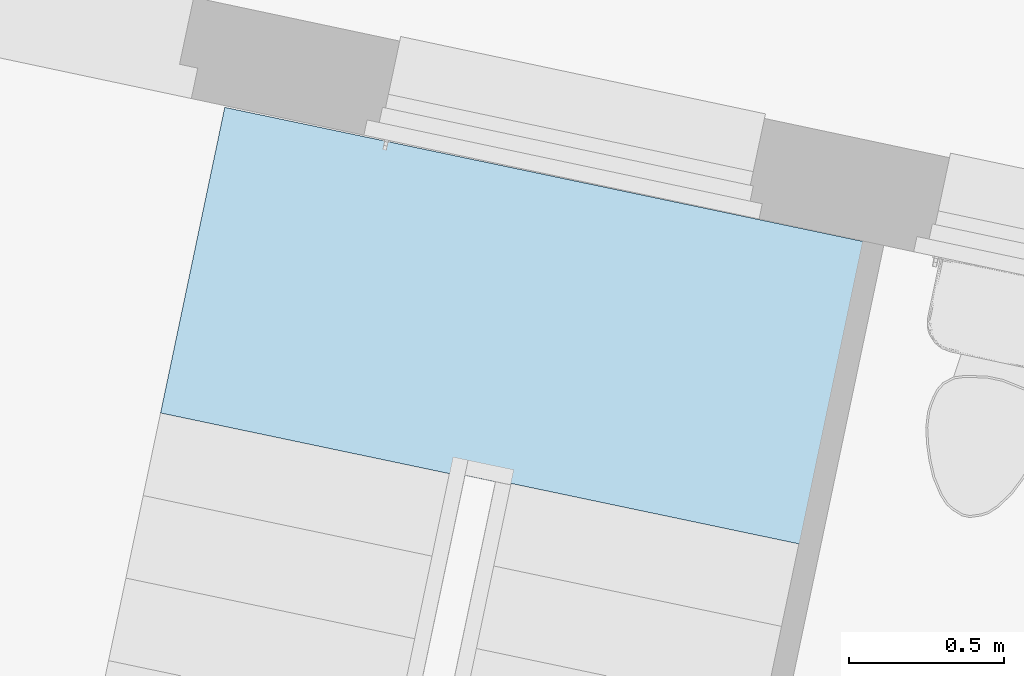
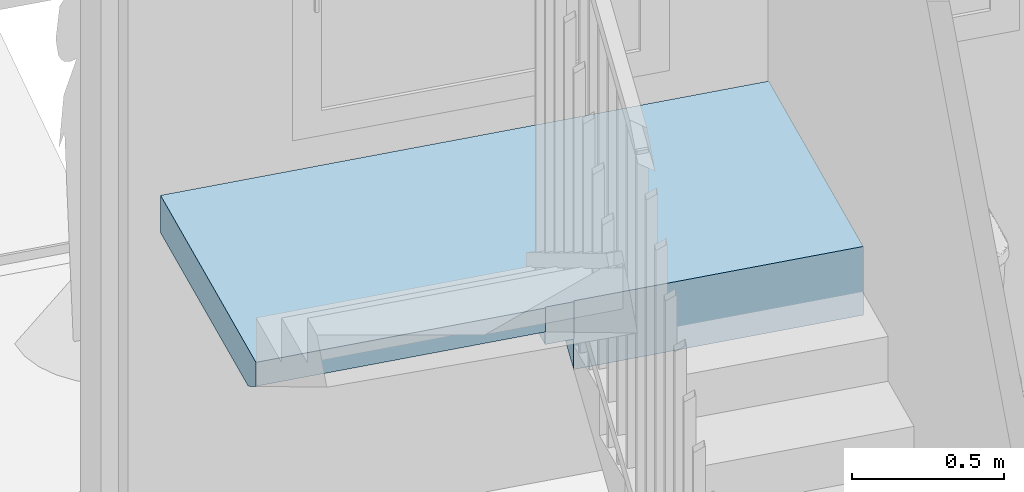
# One storey, part 6 of 20: 1 slab, 1 element without a shape of its own.
"""IFC2X3 building model written with IfcOpenShell, lengths in metres."""

from ifc_helpers import new_model, entity, si_unit, converted_unit, derived_unit, direction, frame, origin, place, context, subcontext, project, spatial, faceted_brep, element, aggregate, save


model = new_model("IFC2X3")

# Units and contexts
model_context = context("Model", 3, precision=1e-05, world=origin(), true_north=direction((6.12303176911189e-17, 1.0)))
body_context = subcontext(model_context, "Body", "Model", "MODEL_VIEW")
ifc_project = project(units=[si_unit("LENGTHUNIT", "METRE"), si_unit("AREAUNIT", "SQUARE_METRE"), si_unit("VOLUMEUNIT", "CUBIC_METRE"), converted_unit("PLANEANGLEUNIT", "DEGREE", entity("IfcRatioMeasure", 0.0174532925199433), si_unit("PLANEANGLEUNIT", "RADIAN"), dimensions=[0, 0, 0, 0, 0, 0, 0]), si_unit("MASSUNIT", "GRAM", prefix="KILO"), derived_unit("MASSDENSITYUNIT", [(si_unit("MASSUNIT", "GRAM", prefix="KILO"), 1), (si_unit("LENGTHUNIT", "METRE"), -3)]), si_unit("TIMEUNIT", "SECOND"), si_unit("FREQUENCYUNIT", "HERTZ"), si_unit("THERMODYNAMICTEMPERATUREUNIT", "DEGREE_CELSIUS"), derived_unit("THERMALTRANSMITTANCEUNIT", [(si_unit("MASSUNIT", "GRAM", prefix="KILO"), 1), (si_unit("THERMODYNAMICTEMPERATUREUNIT", "KELVIN"), -1), (si_unit("TIMEUNIT", "SECOND"), -3)]), derived_unit("VOLUMETRICFLOWRATEUNIT", [(si_unit("LENGTHUNIT", "METRE"), 3), (si_unit("TIMEUNIT", "SECOND"), -1)]), si_unit("ELECTRICCURRENTUNIT", "AMPERE"), si_unit("ELECTRICVOLTAGEUNIT", "VOLT"), si_unit("POWERUNIT", "WATT"), si_unit("FORCEUNIT", "NEWTON", prefix="KILO"), si_unit("ILLUMINANCEUNIT", "LUX"), si_unit("LUMINOUSFLUXUNIT", "LUMEN"), si_unit("LUMINOUSINTENSITYUNIT", "CANDELA"), derived_unit("USERDEFINED", [(si_unit("MASSUNIT", "GRAM", prefix="KILO"), -1), (si_unit("LENGTHUNIT", "METRE"), -2), (si_unit("TIMEUNIT", "SECOND"), 3), (si_unit("LUMINOUSFLUXUNIT", "LUMEN"), 1)]), derived_unit("LINEARVELOCITYUNIT", [(si_unit("LENGTHUNIT", "METRE"), 1), (si_unit("TIMEUNIT", "SECOND"), -1)]), si_unit("PRESSUREUNIT", "PASCAL"), derived_unit("USERDEFINED", [(si_unit("LENGTHUNIT", "METRE"), -2), (si_unit("MASSUNIT", "GRAM", prefix="KILO"), 1), (si_unit("TIMEUNIT", "SECOND"), -2)])], contexts=[model_context])

# Site, building, storey
site_placement = place(None, origin())
site = spatial("IfcSite", under=ifc_project, at=site_placement, Name="Default", CompositionType="ELEMENT")
building_placement = place(site_placement, origin())
building = spatial("IfcBuilding", under=site, at=building_placement, CompositionType="ELEMENT")
storey_placement = place(building_placement, frame((0.0, 0.0, -0.0686871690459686)))
storey = spatial("IfcBuildingStorey", under=building, at=storey_placement, Name="RDC", CompositionType="ELEMENT", Elevation=-0.0686871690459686)

# Stair, slab
stair_placement = place(storey_placement, origin())
stair = element("IfcStair", 1, at=stair_placement, inside=storey, Name="Escalier coulé sur place:Escalier", ObjectType="Escalier coulé sur place:Monobloc", ShapeType="NOTDEFINED")
slab_placement = place(stair_placement, frame((-13.9015349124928, 84.2464962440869, 0.0)))
slab = element("IfcSlab", 2, at=slab_placement, Name="Escalier coulé sur place:Escalier:1893858 Landing 1", ObjectType="Palier monobloc:Epaisseur 150 mm", PredefinedType="LANDING", context=body_context, shape_type="Brep", body=[
    faceted_brep([(1.07753764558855, 0.200662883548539, 1.43434358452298), (1.07856542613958, 0.205556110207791, 1.43434358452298), (2.05721075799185, 0.0, 1.43434358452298), (2.09616072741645, 0.185439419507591, 1.43434358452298), (2.26173908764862, 0.973752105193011, 1.43434358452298), (0.206583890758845, 1.40541993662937, 1.43434358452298), (0.0168408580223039, 0.502060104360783, 1.43434358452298), (0.00102778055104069, 0.426774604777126, 1.43434358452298), (0.0, 0.421881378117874, 1.43434358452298), (0.978645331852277, 0.216325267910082, 1.43434358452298), (0.979673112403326, 0.221218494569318, 1.43434358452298), (1.07753764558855, 0.200662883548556, 1.28434358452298), (1.07856542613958, 0.205556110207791, 1.28434358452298), (1.07856542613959, 0.205556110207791, 1.25505063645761), (1.07856542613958, 0.205556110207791, 1.15917148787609), (2.05721075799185, 0.0, 1.1591714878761), (2.05721075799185, 0.0, 1.25505063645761), (2.09616072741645, 0.185439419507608, 1.28434358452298), (2.26173908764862, 0.973752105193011, 1.28434358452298), (0.206583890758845, 1.40541993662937, 1.28434358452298), (0.0168408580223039, 0.502060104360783, 1.28434358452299), (0.00102778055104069, 0.426774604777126, 1.33516149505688), (0.0, 0.421881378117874, 1.33846443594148), (0.978645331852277, 0.216325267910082, 1.33846443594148), (0.979673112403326, 0.221218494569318, 1.33516149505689), (0.979673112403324, 0.221218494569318, 1.28434358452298), (0.995486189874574, 0.296503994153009, 1.28434358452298), (1.11751539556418, 0.390995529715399, 1.28434358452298)], [[[0, 1, 2, 3, 4, 5, 6, 7, 8, 9, 10]], [[1, 0, 11, 12]], [[2, 1, 12, 13, 14, 15, 16]], [[2, 16, 15, 17, 18, 4, 3]], [[5, 4, 18, 19]], [[5, 19, 20, 21, 7, 6]], [[8, 7, 21, 22]], [[9, 8, 22, 23]], [[10, 9, 23, 24]], [[0, 10, 24, 25, 11]], [[25, 26, 20, 19, 18, 17, 27, 12, 11]], [[26, 25, 24]], [[27, 17, 15, 14]], [[12, 27, 14, 13]], [[20, 26, 24, 23, 22, 21]]]),
])
aggregate(stair, [slab])

save(model, "model.ifc")
